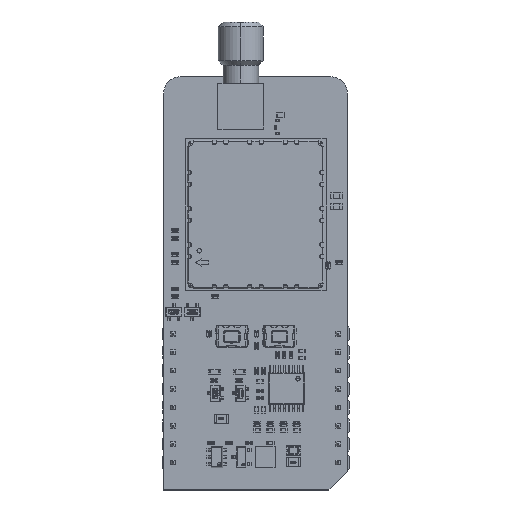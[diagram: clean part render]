
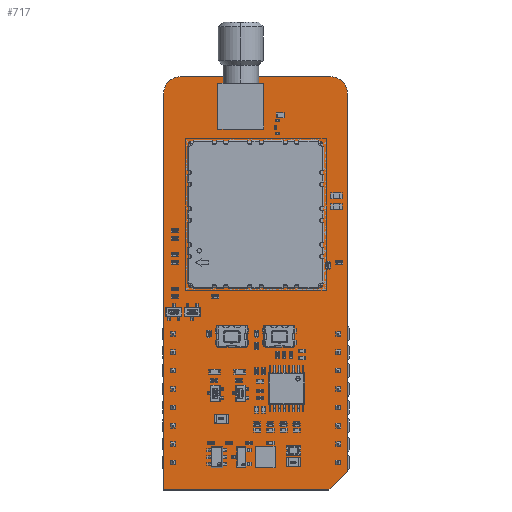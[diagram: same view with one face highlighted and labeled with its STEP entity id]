
A CAD part, top view. The second image highlights one B-rep face of the part: STEP entity #717.
In plain terms, the highlighted planar face has unit normal (0, 0, 1).
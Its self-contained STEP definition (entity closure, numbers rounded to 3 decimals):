
#488 = VERTEX_POINT('',#489);
#489 = CARTESIAN_POINT('',(-1.27,-3.81,1.65));
#495 = EDGE_CURVE('',#488,#496,#498,.T.);
#496 = VERTEX_POINT('',#497);
#497 = CARTESIAN_POINT('',(-1.27,51.054,1.65));
#498 = LINE('',#499,#500);
#499 = CARTESIAN_POINT('',(-1.27,-3.81,1.65));
#500 = VECTOR('',#501,1.);
#501 = DIRECTION('',(0.,1.,0.));
#526 = EDGE_CURVE('',#496,#527,#529,.T.);
#527 = VERTEX_POINT('',#528);
#528 = CARTESIAN_POINT('',(1.016,53.34,1.65));
#529 = CIRCLE('',#530,2.288);
#530 = AXIS2_PLACEMENT_3D('',#531,#532,#533);
#531 = CARTESIAN_POINT('',(1.018,51.052,1.65));
#532 = DIRECTION('',(0.,0.,-1.));
#533 = DIRECTION('',(-1.,0.001,0.));
#559 = EDGE_CURVE('',#527,#560,#562,.T.);
#560 = VERTEX_POINT('',#561);
#561 = CARTESIAN_POINT('',(21.844,53.34,1.65));
#562 = LINE('',#563,#564);
#563 = CARTESIAN_POINT('',(1.016,53.34,1.65));
#564 = VECTOR('',#565,1.);
#565 = DIRECTION('',(1.,0.,0.));
#590 = EDGE_CURVE('',#560,#591,#593,.T.);
#591 = VERTEX_POINT('',#592);
#592 = CARTESIAN_POINT('',(24.13,51.054,1.65));
#593 = CIRCLE('',#594,2.288);
#594 = AXIS2_PLACEMENT_3D('',#595,#596,#597);
#595 = CARTESIAN_POINT('',(21.842,51.052,1.65));
#596 = DIRECTION('',(0.,0.,-1.));
#597 = DIRECTION('',(0.001,1.,0.));
#623 = EDGE_CURVE('',#591,#624,#626,.T.);
#624 = VERTEX_POINT('',#625);
#625 = CARTESIAN_POINT('',(24.13,-1.27,1.65));
#626 = LINE('',#627,#628);
#627 = CARTESIAN_POINT('',(24.13,51.054,1.65));
#628 = VECTOR('',#629,1.);
#629 = DIRECTION('',(0.,-1.,0.));
#654 = EDGE_CURVE('',#624,#655,#657,.T.);
#655 = VERTEX_POINT('',#656);
#656 = CARTESIAN_POINT('',(21.59,-3.81,1.65));
#657 = LINE('',#658,#659);
#658 = CARTESIAN_POINT('',(24.13,-1.27,1.65));
#659 = VECTOR('',#660,1.);
#660 = DIRECTION('',(-0.707,-0.707,0.));
#685 = EDGE_CURVE('',#655,#488,#686,.T.);
#686 = LINE('',#687,#688);
#687 = CARTESIAN_POINT('',(21.59,-3.81,1.65));
#688 = VECTOR('',#689,1.);
#689 = DIRECTION('',(-1.,0.,0.));
#717 = ADVANCED_FACE('',(#718),#727,.F.);
#718 = FACE_BOUND('',#719,.F.);
#719 = EDGE_LOOP('',(#720,#721,#722,#723,#724,#725,#726));
#720 = ORIENTED_EDGE('',*,*,#495,.T.);
#721 = ORIENTED_EDGE('',*,*,#526,.T.);
#722 = ORIENTED_EDGE('',*,*,#559,.T.);
#723 = ORIENTED_EDGE('',*,*,#590,.T.);
#724 = ORIENTED_EDGE('',*,*,#623,.T.);
#725 = ORIENTED_EDGE('',*,*,#654,.T.);
#726 = ORIENTED_EDGE('',*,*,#685,.T.);
#727 = PLANE('',#728);
#728 = AXIS2_PLACEMENT_3D('',#729,#730,#731);
#729 = CARTESIAN_POINT('',(11.305,24.669,1.65));
#730 = DIRECTION('',(-0.,-0.,-1.));
#731 = DIRECTION('',(-1.,0.,0.));
